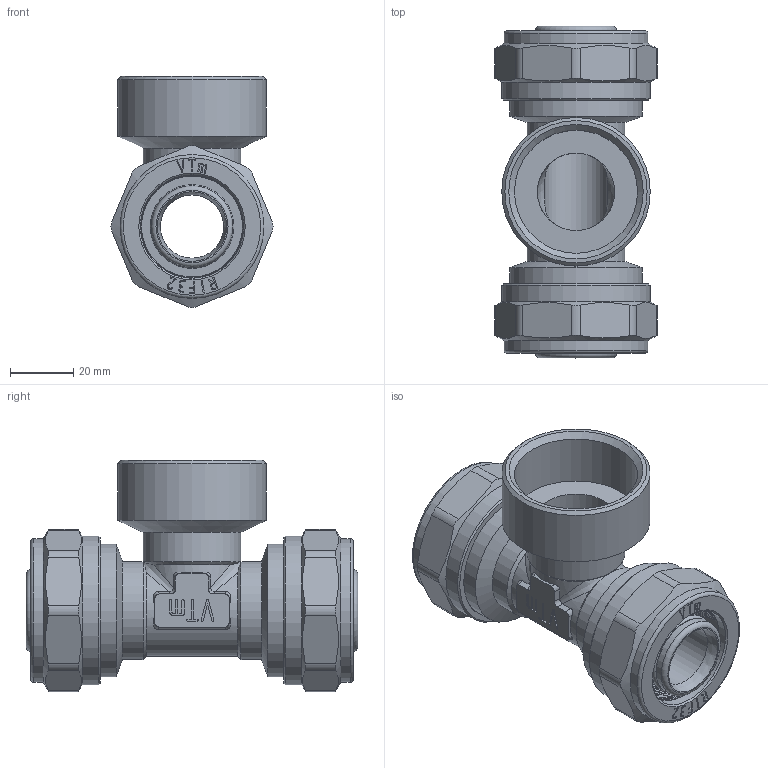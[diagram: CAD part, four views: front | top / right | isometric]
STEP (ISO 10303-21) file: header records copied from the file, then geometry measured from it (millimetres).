
FILE_DESCRIPTION(('STEP AP203'), '1');
FILE_NAME('VTm.332.N.320732', '', ('UNSPECIFIED'), ('UNSPECIFIED'), 'C3D Converter', 'C3D Toolkit', '');
FILE_SCHEMA(('CONFIG_CONTROL_DESIGN'));
Length unit declared in the file: millimetre
Products named in the file (1): ВР.302635.076.000 СБ
Bounding box: 51.3 x 105 x 73.15 mm (x, y, z)
Volume: 92385.1 mm3; surface area: 50677.9 mm2
Topology: 1 solids, 1 shells, 778 faces, 2138 edges, 1411 vertices
Faces by surface type: extrusion 336, plane 250, cylinder 96, torus 58, cone 32, bspline 4, sphere 2
Full cylindrical faces by diameter (mm): 20 x1, 22.8 x8, 24.5 x1, 25.8 x10, 26 x2, 31 x3, 32.1 x2, 32.2 x2, 32.7 x2, 38.953 x1, 40.376 x2, 42 x2, 45.5 x2, 47 x3
Entity records: 29342 total; most frequent: CARTESIAN_POINT 11602, ORIENTED_EDGE 4086, DIRECTION 2544, EDGE_CURVE 2043, VERTEX_POINT 1411, VECTOR 1238, B_SPLINE_CURVE_WITH_KNOTS 1201, EDGE_LOOP 926
